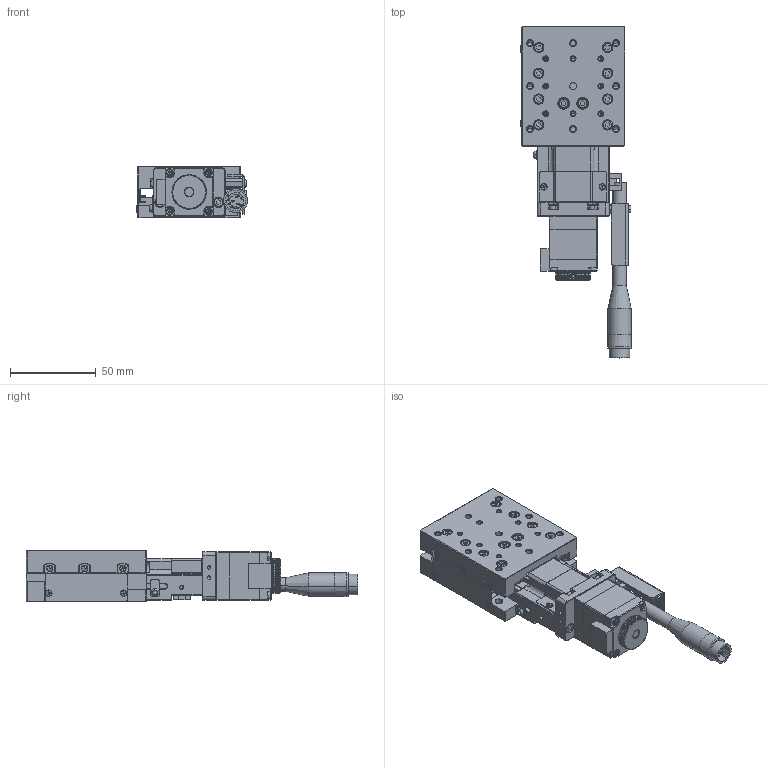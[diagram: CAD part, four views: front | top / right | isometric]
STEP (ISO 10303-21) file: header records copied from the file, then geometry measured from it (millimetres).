
FILE_DESCRIPTION (( 'STEP AP214' ), '1' );
FILE_NAME ('TXA6030B-L2-M28R.STEP', '2025-01-03T11:21:35', ( '' ), ( '' ), 'SwSTEP 2.0', 'SolidWorks 2020', '' );
FILE_SCHEMA (( 'AUTOMOTIVE_DESIGN' ));
Length unit declared in the file: millimetre
Products named in the file (1): TXA6030B-L2-M28R
Bounding box: 64.71 x 193 x 30 mm (x, y, z)
Volume: 148619.7 mm3; surface area: 82441.4 mm2
Topology: 79 solids, 79 shells, 3434 faces, 8572 edges, 5409 vertices
Faces by surface type: plane 1742, cylinder 873, cone 489, torus 172, bspline 154, sphere 4
Entity records: 148234 total; most frequent: CARTESIAN_POINT 27486, ORIENTED_EDGE 17002, DIRECTION 16835, EDGE_CURVE 8501, AXIS2_PLACEMENT_3D 5825, VERTEX_POINT 5409, LINE 5185, VECTOR 5185
